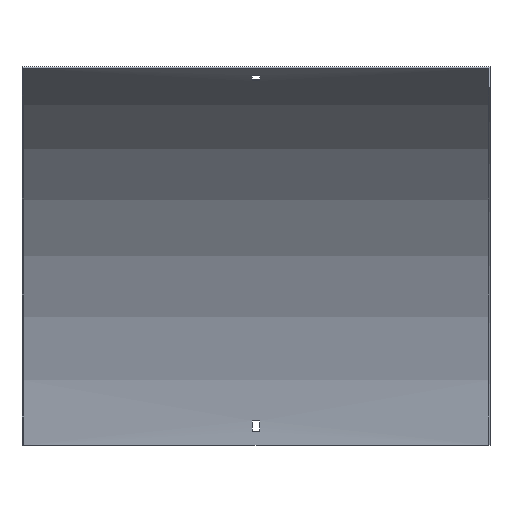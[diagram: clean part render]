
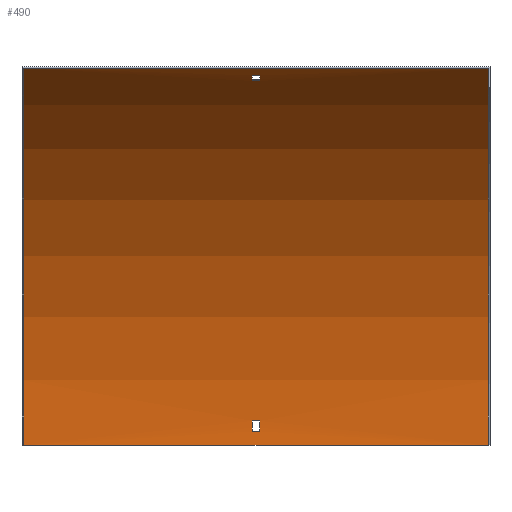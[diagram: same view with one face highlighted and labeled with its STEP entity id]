
A CAD part, front view. The second image highlights one B-rep face of the part: STEP entity #490.
In plain terms, the highlighted cylindrical face has radius 375 mm (diameter 750 mm), a partial arc.
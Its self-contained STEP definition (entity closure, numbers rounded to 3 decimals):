
#12 = LINE ( 'NONE', #480, #598 ) ;
#16 = DIRECTION ( 'NONE',  ( -1., 0., 0. ) ) ;
#20 = ORIENTED_EDGE ( 'NONE', *, *, #410, .T. ) ;
#21 = VERTEX_POINT ( 'NONE', #414 ) ;
#26 = VECTOR ( 'NONE', #245, 1000. ) ;
#31 = EDGE_CURVE ( 'NONE', #21, #70, #529, .T. ) ;
#43 = AXIS2_PLACEMENT_3D ( 'NONE', #500, #597, #321 ) ;
#45 = CARTESIAN_POINT ( 'NONE',  ( 200., -189., 324.76 ) ) ;
#48 = CARTESIAN_POINT ( 'NONE',  ( 200., -189., 324.76 ) ) ;
#52 = EDGE_CURVE ( 'NONE', #70, #446, #388, .T. ) ;
#57 = LINE ( 'NONE', #205, #286 ) ;
#59 = EDGE_LOOP ( 'NONE', ( #104, #177, #199, #354 ) ) ;
#64 = ORIENTED_EDGE ( 'NONE', *, *, #322, .T. ) ;
#70 = VERTEX_POINT ( 'NONE', #550 ) ;
#71 = VERTEX_POINT ( 'NONE', #374 ) ;
#73 = CARTESIAN_POINT ( 'NONE',  ( -200., -189., 324.76 ) ) ;
#80 = DIRECTION ( 'NONE',  ( -1., 0., 0. ) ) ;
#88 = AXIS2_PLACEMENT_3D ( 'NONE', #137, #471, #334 ) ;
#91 = DIRECTION ( 'NONE',  ( -1., 0., 0. ) ) ;
#92 = DIRECTION ( 'NONE',  ( -1., 0., 0. ) ) ;
#93 = LINE ( 'NONE', #287, #194 ) ;
#96 = CARTESIAN_POINT ( 'NONE',  ( -3.25, -1.692, 12. ) ) ;
#101 = DIRECTION ( 'NONE',  ( -1., 0., 0. ) ) ;
#102 = VERTEX_POINT ( 'NONE', #298 ) ;
#104 = ORIENTED_EDGE ( 'NONE', *, *, #234, .F. ) ;
#107 = CARTESIAN_POINT ( 'NONE',  ( -3.25, -376.5, 0. ) ) ;
#115 = CIRCLE ( 'NONE', #464, 375. ) ;
#129 = CARTESIAN_POINT ( 'NONE',  ( 3.25, -376.5, 0. ) ) ;
#135 = DIRECTION ( 'NONE',  ( 0., 0., 1. ) ) ;
#137 = CARTESIAN_POINT ( 'NONE',  ( -200., -376.5, 0. ) ) ;
#141 = CARTESIAN_POINT ( 'NONE',  ( 200., -1.5, 0. ) ) ;
#149 = FACE_OUTER_BOUND ( 'NONE', #59, .T. ) ;
#150 = DIRECTION ( 'NONE',  ( 1., 0., 0. ) ) ;
#159 = ORIENTED_EDGE ( 'NONE', *, *, #455, .T. ) ;
#163 = VERTEX_POINT ( 'NONE', #141 ) ;
#174 = EDGE_CURVE ( 'NONE', #451, #579, #376, .T. ) ;
#177 = ORIENTED_EDGE ( 'NONE', *, *, #306, .F. ) ;
#178 = CARTESIAN_POINT ( 'NONE',  ( 201.5, -2.088, 21. ) ) ;
#187 = EDGE_CURVE ( 'NONE', #209, #21, #93, .T. ) ;
#194 = VECTOR ( 'NONE', #240, 1000. ) ;
#195 = CARTESIAN_POINT ( 'NONE',  ( 3.25, -376.5, 0. ) ) ;
#196 = DIRECTION ( 'NONE',  ( 0., 0., 1. ) ) ;
#199 = ORIENTED_EDGE ( 'NONE', *, *, #542, .T. ) ;
#201 = DIRECTION ( 'NONE',  ( 1., 0., 0. ) ) ;
#203 = CIRCLE ( 'NONE', #336, 375. ) ;
#205 = CARTESIAN_POINT ( 'NONE',  ( 201.5, -178.704, 318.593 ) ) ;
#209 = VERTEX_POINT ( 'NONE', #96 ) ;
#214 = VERTEX_POINT ( 'NONE', #476 ) ;
#217 = VECTOR ( 'NONE', #80, 1000. ) ;
#234 = EDGE_CURVE ( 'NONE', #297, #579, #365, .T. ) ;
#240 = DIRECTION ( 'NONE',  ( 1., 0., 0. ) ) ;
#245 = DIRECTION ( 'NONE',  ( -1., 0., 0. ) ) ;
#248 = VERTEX_POINT ( 'NONE', #379 ) ;
#265 = AXIS2_PLACEMENT_3D ( 'NONE', #129, #289, #437 ) ;
#277 = DIRECTION ( 'NONE',  ( 0., 0., 1. ) ) ;
#281 = CYLINDRICAL_SURFACE ( 'NONE', #473, 375. ) ;
#286 = VECTOR ( 'NONE', #201, 1000. ) ;
#287 = CARTESIAN_POINT ( 'NONE',  ( 201.5, -1.692, 12. ) ) ;
#289 = DIRECTION ( 'NONE',  ( 1., 0., 0. ) ) ;
#293 = LINE ( 'NONE', #301, #26 ) ;
#297 = VERTEX_POINT ( 'NONE', #491 ) ;
#298 = CARTESIAN_POINT ( 'NONE',  ( -3.25, -178.704, 318.593 ) ) ;
#301 = CARTESIAN_POINT ( 'NONE',  ( 200., -1.5, 0. ) ) ;
#303 = DIRECTION ( 'NONE',  ( 0., 0., -1. ) ) ;
#304 = CIRCLE ( 'NONE', #43, 375. ) ;
#306 = EDGE_CURVE ( 'NONE', #163, #297, #293, .T. ) ;
#321 = DIRECTION ( 'NONE',  ( 0., 1., 0. ) ) ;
#322 = EDGE_CURVE ( 'NONE', #102, #248, #57, .T. ) ;
#327 = VECTOR ( 'NONE', #91, 1000. ) ;
#333 = FACE_BOUND ( 'NONE', #547, .T. ) ;
#334 = DIRECTION ( 'NONE',  ( 0., 0., -1. ) ) ;
#336 = AXIS2_PLACEMENT_3D ( 'NONE', #195, #428, #277 ) ;
#349 = EDGE_LOOP ( 'NONE', ( #159, #20, #64, #495 ) ) ;
#354 = ORIENTED_EDGE ( 'NONE', *, *, #174, .T. ) ;
#360 = ORIENTED_EDGE ( 'NONE', *, *, #52, .F. ) ;
#365 = CIRCLE ( 'NONE', #88, 375. ) ;
#374 = CARTESIAN_POINT ( 'NONE',  ( -3.25, -171.108, 313.75 ) ) ;
#376 = LINE ( 'NONE', #48, #327 ) ;
#379 = CARTESIAN_POINT ( 'NONE',  ( 3.25, -178.704, 318.593 ) ) ;
#388 = LINE ( 'NONE', #178, #217 ) ;
#410 = EDGE_CURVE ( 'NONE', #71, #102, #304, .T. ) ;
#412 = ORIENTED_EDGE ( 'NONE', *, *, #31, .F. ) ;
#414 = CARTESIAN_POINT ( 'NONE',  ( 3.25, -1.692, 12. ) ) ;
#428 = DIRECTION ( 'NONE',  ( -1., 0., 0. ) ) ;
#437 = DIRECTION ( 'NONE',  ( 0., 0., -1. ) ) ;
#446 = VERTEX_POINT ( 'NONE', #556 ) ;
#451 = VERTEX_POINT ( 'NONE', #45 ) ;
#455 = EDGE_CURVE ( 'NONE', #214, #71, #12, .T. ) ;
#460 = ORIENTED_EDGE ( 'NONE', *, *, #583, .F. ) ;
#464 = AXIS2_PLACEMENT_3D ( 'NONE', #486, #150, #303 ) ;
#471 = DIRECTION ( 'NONE',  ( 1., 0., 0. ) ) ;
#473 = AXIS2_PLACEMENT_3D ( 'NONE', #522, #101, #135 ) ;
#476 = CARTESIAN_POINT ( 'NONE',  ( 3.25, -171.108, 313.75 ) ) ;
#477 = EDGE_CURVE ( 'NONE', #248, #214, #203, .T. ) ;
#480 = CARTESIAN_POINT ( 'NONE',  ( 201.5, -171.108, 313.75 ) ) ;
#483 = FACE_BOUND ( 'NONE', #349, .T. ) ;
#486 = CARTESIAN_POINT ( 'NONE',  ( 200., -376.5, 0. ) ) ;
#490 = ADVANCED_FACE ( 'NONE', ( #333, #149, #483 ), #281, .F. ) ;
#491 = CARTESIAN_POINT ( 'NONE',  ( -200., -1.5, 0. ) ) ;
#495 = ORIENTED_EDGE ( 'NONE', *, *, #477, .T. ) ;
#500 = CARTESIAN_POINT ( 'NONE',  ( -3.25, -376.5, 0. ) ) ;
#519 = ORIENTED_EDGE ( 'NONE', *, *, #187, .F. ) ;
#522 = CARTESIAN_POINT ( 'NONE',  ( 201.5, -376.5, 0. ) ) ;
#529 = CIRCLE ( 'NONE', #265, 375. ) ;
#538 = CIRCLE ( 'NONE', #566, 375. ) ;
#542 = EDGE_CURVE ( 'NONE', #163, #451, #115, .T. ) ;
#547 = EDGE_LOOP ( 'NONE', ( #460, #360, #412, #519 ) ) ;
#550 = CARTESIAN_POINT ( 'NONE',  ( 3.25, -2.088, 21. ) ) ;
#556 = CARTESIAN_POINT ( 'NONE',  ( -3.25, -2.088, 21. ) ) ;
#566 = AXIS2_PLACEMENT_3D ( 'NONE', #107, #16, #196 ) ;
#579 = VERTEX_POINT ( 'NONE', #73 ) ;
#583 = EDGE_CURVE ( 'NONE', #446, #209, #538, .T. ) ;
#597 = DIRECTION ( 'NONE',  ( 1., 0., 0. ) ) ;
#598 = VECTOR ( 'NONE', #92, 1000. ) ;
